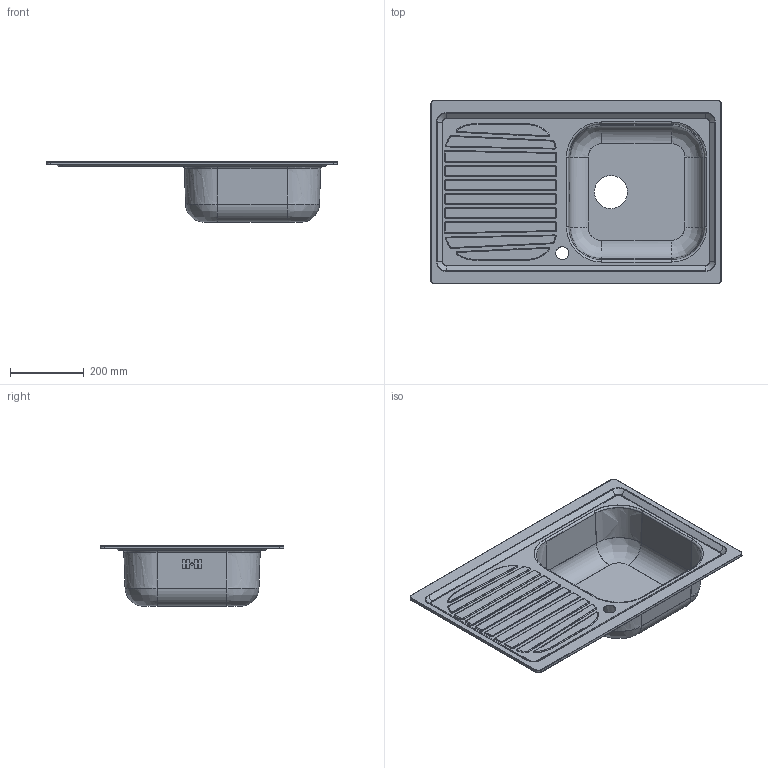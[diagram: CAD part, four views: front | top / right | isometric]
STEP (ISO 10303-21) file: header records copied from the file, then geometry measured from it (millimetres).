
FILE_DESCRIPTION((''),'1');
FILE_NAME('C:/Users/linop/Desktop/LYP791Dxx.stp','2018-09-11T11:26:10',(''),(''),'Spatial Interop R20 SP1','Kubotek KeyCreator V9.0.3 (16864)',' ');
FILE_SCHEMA(('CONFIG_CONTROL_DESIGN'));
Length unit declared in the file: millimetre
Products named in the file (1): 1
Bounding box: 790 x 500 x 164 mm (x, y, z)
Volume: 348762.2 mm3; surface area: 1164213 mm2
Topology: 1 solids, 1 shells, 656 faces, 1483 edges, 853 vertices
Faces by surface type: bspline 400, cylinder 146, plane 110
Full cylindrical faces by diameter (mm): 35 x1, 90 x1
Entity records: 69167 total; most frequent: CARTESIAN_POINT 57669, ORIENTED_EDGE 2962, EDGE_CURVE 1481, DIRECTION 1181, B_SPLINE_CURVE_WITH_KNOTS 950, VERTEX_POINT 853, EDGE_LOOP 696, ADVANCED_FACE 656
